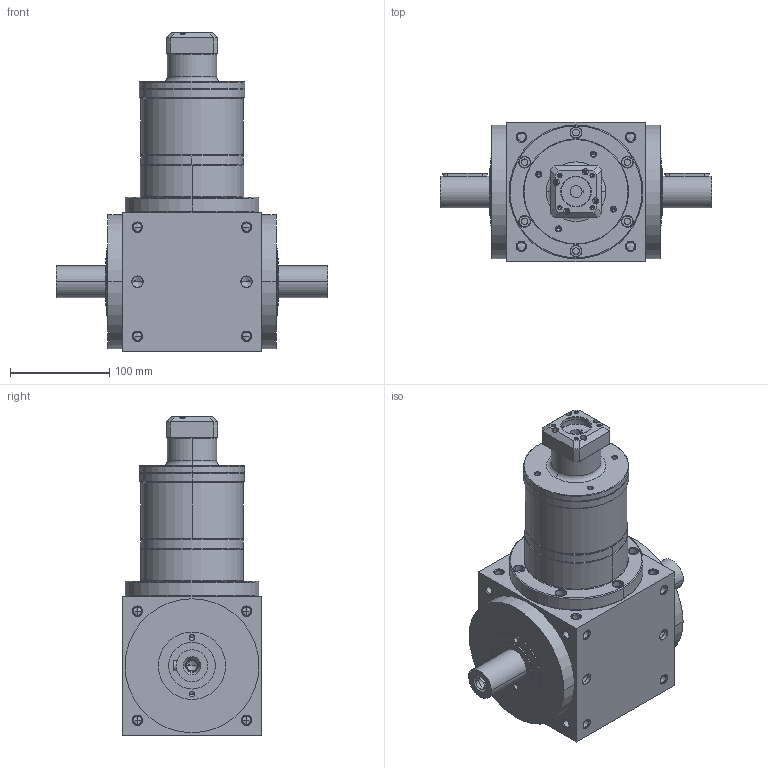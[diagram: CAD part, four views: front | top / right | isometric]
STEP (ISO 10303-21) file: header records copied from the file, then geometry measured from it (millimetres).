
FILE_DESCRIPTION((''),'2;1');
FILE_NAME('AT140FL3-P0405100202_ASM','2009-01-15T',('d00176'),(''),'PRO/ENGINEER BY PARAMETRIC TECHNOLOGY CORPORATION, 2006170','PRO/ENGINEER BY PARAMETRIC TECHNOLOGY CORPORATION, 2006170','');
FILE_SCHEMA(('CONFIG_CONTROL_DESIGN'));
Length unit declared in the file: millimetre
Products named in the file (6): ATFL-HOUSING-3-6; P1801600002; P0226600002; P0227600001; P0405100202; AT140FL3-P0405100202_ASM
Assembly tree (5 placements, depth 2):
  AT140FL3-P0405100202_ASM
    ATFL-HOUSING-3-6
    P1801600002
    P0226600002
    P0227600001
    P0405100202
Bounding box: 274 x 140 x 321 mm (x, y, z)
Volume: 4010760.4 mm3; surface area: 352112.9 mm2
Topology: 5 solids, 49 shells, 924 faces, 2252 edges, 1333 vertices
Faces by surface type: cylinder 406, cone 330, plane 126, torus 58, bspline 4
Entity records: 27529 total; most frequent: CARTESIAN_POINT 5673, DIRECTION 4972, ORIENTED_EDGE 4116, EDGE_CURVE 2146, AXIS2_PLACEMENT_3D 2089, VERTEX_POINT 1333, CIRCLE 1148, EDGE_LOOP 1107
